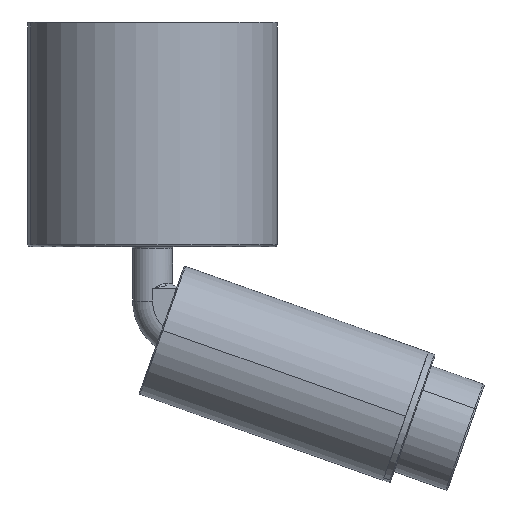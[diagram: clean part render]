
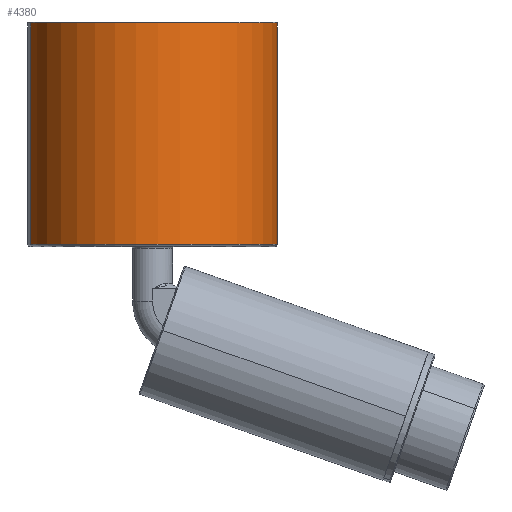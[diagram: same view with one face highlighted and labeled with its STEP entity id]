
A CAD part, front view. The second image highlights one B-rep face of the part: STEP entity #4380.
In plain terms, the highlighted cylindrical face has radius 25 mm (diameter 50 mm), a partial arc.
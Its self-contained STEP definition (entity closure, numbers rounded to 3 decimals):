
#1677 = CARTESIAN_POINT ( 'NONE',  ( 34.151, 18.857, 38.642 ) ) ;
#2549 = AXIS2_PLACEMENT_3D ( 'NONE', #46707, #70977, #4465 ) ;
#4380 = ADVANCED_FACE ( 'NONE', ( #8527 ), #75408, .T. ) ;
#4465 = DIRECTION ( 'NONE',  ( 0.976, 0.216, 0. ) ) ;
#6550 = CIRCLE ( 'NONE', #49843, 25. ) ;
#6927 = VERTEX_POINT ( 'NONE', #21575 ) ;
#8527 = FACE_OUTER_BOUND ( 'NONE', #67482, .T. ) ;
#11917 = AXIS2_PLACEMENT_3D ( 'NONE', #53500, #39983, #40762 ) ;
#12455 = VERTEX_POINT ( 'NONE', #55213 ) ;
#13377 = CARTESIAN_POINT ( 'NONE',  ( 9.743, 13.446, 26.382 ) ) ;
#13776 = EDGE_CURVE ( 'NONE', #6927, #12455, #32763, .T. ) ;
#15510 = VECTOR ( 'NONE', #75828, 1000. ) ;
#15733 = CIRCLE ( 'NONE', #11917, 25. ) ;
#21575 = CARTESIAN_POINT ( 'NONE',  ( 34.151, 18.857, 26.382 ) ) ;
#26116 = CARTESIAN_POINT ( 'NONE',  ( -14.664, 8.035, 38.642 ) ) ;
#32763 = LINE ( 'NONE', #1677, #61473 ) ;
#37150 = EDGE_CURVE ( 'NONE', #46486, #6927, #6550, .T. ) ;
#37656 = VERTEX_POINT ( 'NONE', #56980 ) ;
#39983 = DIRECTION ( 'NONE',  ( 0., 0., -1. ) ) ;
#40762 = DIRECTION ( 'NONE',  ( -0.976, -0.216, 0. ) ) ;
#43237 = DIRECTION ( 'NONE',  ( 0., 0., 1. ) ) ;
#46486 = VERTEX_POINT ( 'NONE', #53518 ) ;
#46707 = CARTESIAN_POINT ( 'NONE',  ( 9.743, 13.446, 38.642 ) ) ;
#48854 = EDGE_CURVE ( 'NONE', #46486, #37656, #75052, .T. ) ;
#49843 = AXIS2_PLACEMENT_3D ( 'NONE', #13377, #43237, #75070 ) ;
#51061 = DIRECTION ( 'NONE',  ( 0., 0., 1. ) ) ;
#52676 = ORIENTED_EDGE ( 'NONE', *, *, #48854, .F. ) ;
#52864 = ORIENTED_EDGE ( 'NONE', *, *, #56947, .T. ) ;
#53500 = CARTESIAN_POINT ( 'NONE',  ( 9.743, 13.446, 70.682 ) ) ;
#53518 = CARTESIAN_POINT ( 'NONE',  ( -14.664, 8.035, 26.382 ) ) ;
#55213 = CARTESIAN_POINT ( 'NONE',  ( 34.151, 18.857, 70.682 ) ) ;
#56947 = EDGE_CURVE ( 'NONE', #12455, #37656, #15733, .T. ) ;
#56980 = CARTESIAN_POINT ( 'NONE',  ( -14.664, 8.035, 70.682 ) ) ;
#61473 = VECTOR ( 'NONE', #51061, 1000. ) ;
#67482 = EDGE_LOOP ( 'NONE', ( #52676, #73868, #78452, #52864 ) ) ;
#70977 = DIRECTION ( 'NONE',  ( 0., 0., 1. ) ) ;
#73868 = ORIENTED_EDGE ( 'NONE', *, *, #37150, .T. ) ;
#75052 = LINE ( 'NONE', #26116, #15510 ) ;
#75070 = DIRECTION ( 'NONE',  ( 0.976, 0.216, 0. ) ) ;
#75408 = CYLINDRICAL_SURFACE ( 'NONE', #2549, 25. ) ;
#75828 = DIRECTION ( 'NONE',  ( 0., 0., 1. ) ) ;
#78452 = ORIENTED_EDGE ( 'NONE', *, *, #13776, .T. ) ;
